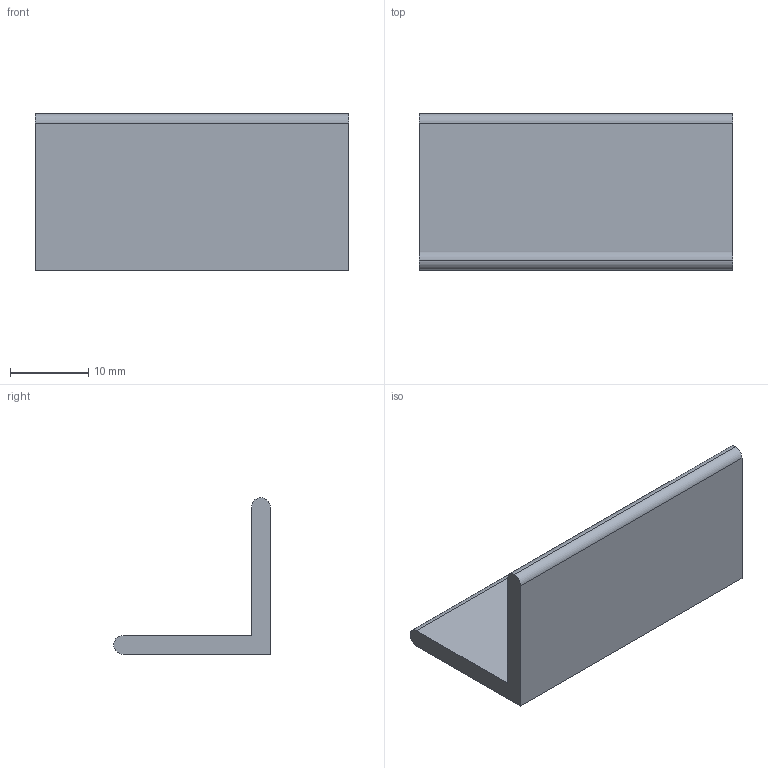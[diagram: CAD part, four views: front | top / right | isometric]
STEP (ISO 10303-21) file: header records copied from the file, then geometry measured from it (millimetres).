
FILE_DESCRIPTION (( 'STEP AP203' ), '1' );
FILE_NAME ('WL2020.STEP', '2024-02-19T12:03:36', ( '' ), ( '' ), 'SwSTEP 2.0', 'SolidWorks 2022', '' );
FILE_SCHEMA (( 'CONFIG_CONTROL_DESIGN' ));
Length unit declared in the file: millimetre
Products named in the file (1): WL2020
Bounding box: 40 x 20 x 20 mm (x, y, z)
Volume: 3560.2 mm3; surface area: 3295.6 mm2
Topology: 1 solids, 1 shells, 9 faces, 21 edges, 14 vertices
Faces by surface type: plane 6, cylinder 3
Entity records: 338 total; most frequent: DIRECTION 47, CARTESIAN_POINT 45, ORIENTED_EDGE 42, EDGE_CURVE 21, AXIS2_PLACEMENT_3D 16, LINE 15, VECTOR 15, VERTEX_POINT 14
